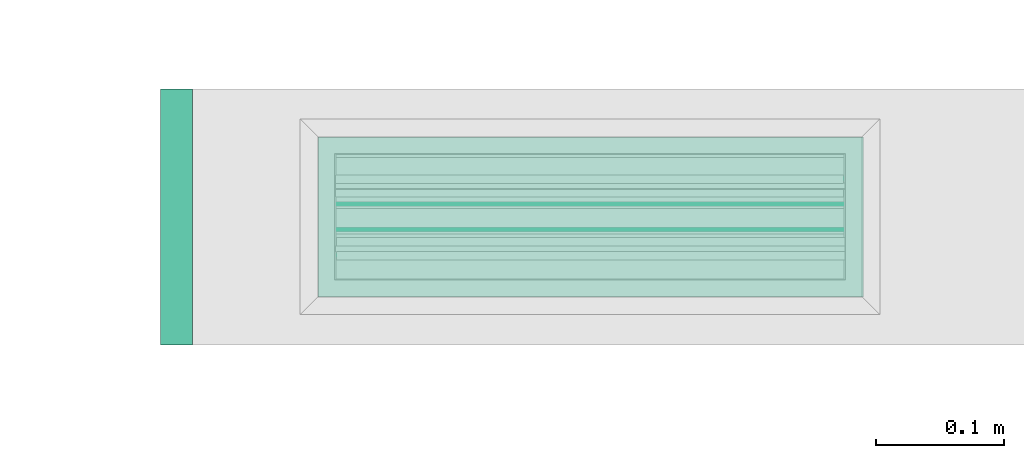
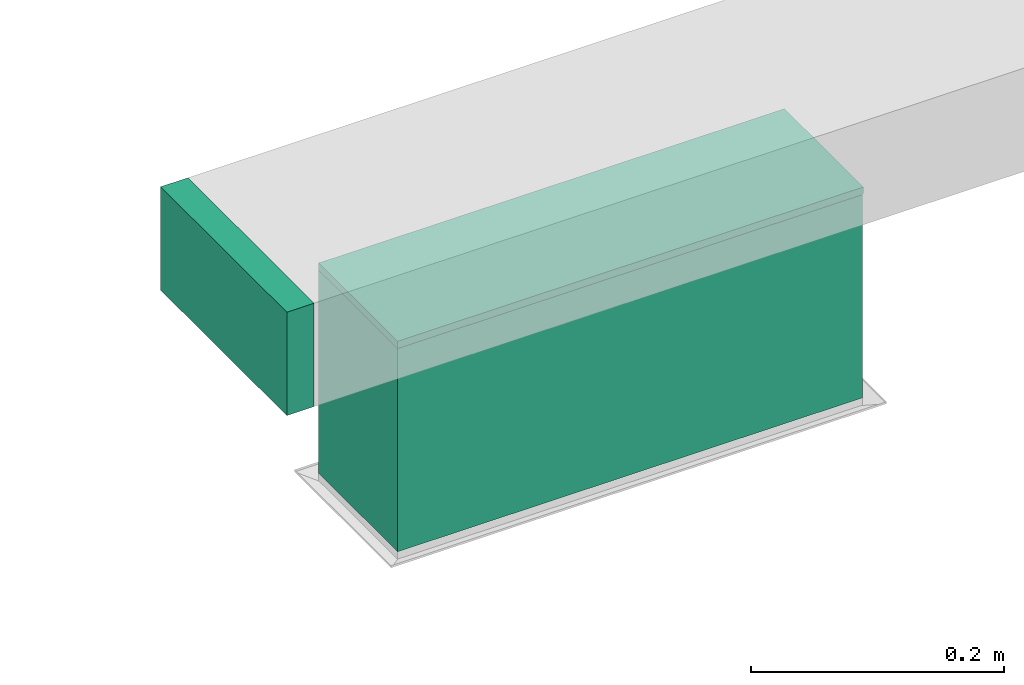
# One storey, part 32 of 60: 2 flow fittings, 1 flow segment.
"""IFC2X3 building model written with IfcOpenShell, lengths in millimetres."""

from ifc_helpers import new_model, entity, si_unit, converted_unit, derived_unit, direction, frame, frame_2d, origin, origin_2d_with_axis, place, context, subcontext, project, spatial, polyline, rectangle, outline, extrude, source, transform, mapped, material, type_object, type_shapes, element, save


model = new_model("IFC2X3")

# Units and contexts
model_context = context("Model", 3, precision=0.01, world=origin(), true_north=direction((6.123233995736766e-17, 1.0)))
body_context = subcontext(model_context, "Body", "Model", "MODEL_VIEW")
ifc_project = project(units=[si_unit("LENGTHUNIT", "METRE", prefix="MILLI"), converted_unit("PLANEANGLEUNIT", "DEGREE", entity("IfcPlaneAngleMeasure", 0.017453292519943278), si_unit("PLANEANGLEUNIT", "RADIAN"), dimensions=[0, 0, 0, 0, 0, 0, 0]), si_unit("AREAUNIT", "SQUARE_METRE"), derived_unit("THERMALTRANSMITTANCEUNIT", [(si_unit("MASSUNIT", "GRAM", prefix="KILO"), 1), (si_unit("THERMODYNAMICTEMPERATUREUNIT", "KELVIN"), -1), (si_unit("TIMEUNIT", "SECOND"), -3)])], contexts=[model_context])

# Site, building, storey
site_placement = place(None, origin())
site = spatial("IfcSite", under=ifc_project, at=site_placement, Name="Default", CompositionType="ELEMENT")
building_placement = place(site_placement, origin())
building = spatial("IfcBuilding", under=site, at=building_placement, Name="Praça Pedro II, 1301 - Centro (Sul), Teresina - PI, 64001-100", CompositionType="ELEMENT")
storey_placement = place(building_placement, frame((0.0, 0.0, 6040.0)))
storey = spatial("IfcBuildingStorey", under=building, at=storey_placement, Name="2PAV", CompositionType="ELEMENT", Elevation=6040.0)

# Flow segment
duct_segment_type = type_object("IfcDuctSegmentType", Name="Duto retangular:Raios cotovelos / torneiras", PredefinedType="NOTDEFINED")
flow_segment_placement = place(storey_placement, origin())
element("IfcFlowSegment", 1, at=flow_segment_placement, inside=storey, type_object=duct_segment_type, Name="Duto retangular:Raios cotovelos / torneiras", ObjectType="Duto retangular:Raios cotovelos / torneiras", context=body_context, shape_type="SweptSolid", body=[
    extrude(rectangle(XDim=125.00000000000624, YDim=424.9999999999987, at=origin_2d_with_axis()), frame((10378.996316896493, -51911.561083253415, 2500.0), z_axis=(0.0, 0.0, 1.0), x_axis=(0.0, 1.0, 0.0)), (0.0, 0.0, 1.0), 196.5000000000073),
])

# Flow fittings
ifc_material = material(Name="<Unnamed>")
duct_fitting_type_1 = type_object("IfcDuctFittingType", Name="M_Tampa retangular:Padrão", PredefinedType="NOTDEFINED", material=ifc_material)
shared_shape_1 = source(origin(), body_context, "Body", "SweptSolid", [
    extrude(rectangle(XDim=24.999999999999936, YDim=200.00000000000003, at=frame_2d((-8.881784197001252e-16, 0.0), x_axis=(1.0, 0.0))), frame((12.500000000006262, 0.0, -50.0)), (0.0, 0.0, 1.0), 100.0),
])
type_shapes(duct_fitting_type_1, [shared_shape_1])
flow_fitting_1_placement = place(storey_placement, frame((10068.541072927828, -51911.561083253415, 2747.500000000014), z_axis=(0.0, 0.0, 1.0), x_axis=(-1.0, 0.0, 0.0)))
element("IfcFlowFitting", 2, at=flow_fitting_1_placement, inside=storey, type_object=duct_fitting_type_1, material=ifc_material, Name="M_Tampa retangular:Padrão", ObjectType="M_Tampa retangular:Padrão", context=body_context, shape_type="MappedRepresentation", body=[
    mapped(shared_shape_1, transform((0.0, 0.0, 0.0), scale=1.0)),
])
duct_fitting_type_2 = type_object("IfcDuctFittingType", Name="M_Rectangular Tap - Beveled:Standard", PredefinedType="NOTDEFINED", material=ifc_material)
shared_shape_2 = source(origin(), body_context, "Body", "SweptSolid", [
    extrude(outline(polyline([(-3.0383999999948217, -255.4), (4.057600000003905, -255.4), (4.057600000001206, 170.60000000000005), (-2.0383999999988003, 170.60000000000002), (-3.038399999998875, 169.59999999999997), (-3.0383999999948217, -255.4)])), frame((-2.0383999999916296, -42.90000000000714, -62.499999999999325), z_axis=(0.0, 0.0, 1.0), x_axis=(-1.0, 0.0, 0.0)), (0.0, 0.0, 1.0), 124.99999999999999),
])
type_shapes(duct_fitting_type_2, [shared_shape_2])
flow_fitting_2_placement = place(storey_placement, frame((10378.996316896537, -51911.561083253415, 2697.5000000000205), z_axis=(0.0, 1.0, 0.0), x_axis=(0.0, 0.0, -1.0)))
element("IfcFlowFitting", 3, at=flow_fitting_2_placement, inside=storey, type_object=duct_fitting_type_2, material=ifc_material, Name="M_Rectangular Tap - Beveled:Standard", ObjectType="M_Rectangular Tap - Beveled:Standard", context=body_context, shape_type="MappedRepresentation", body=[
    mapped(shared_shape_2, transform((0.0, 0.0, 0.0), scale=1.0)),
])

save(model, "model.ifc")
